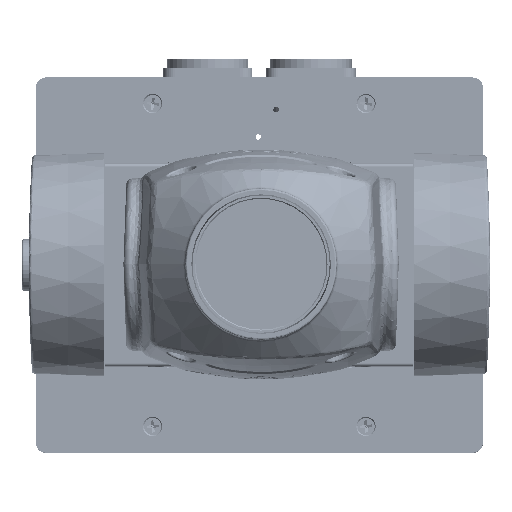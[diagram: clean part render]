
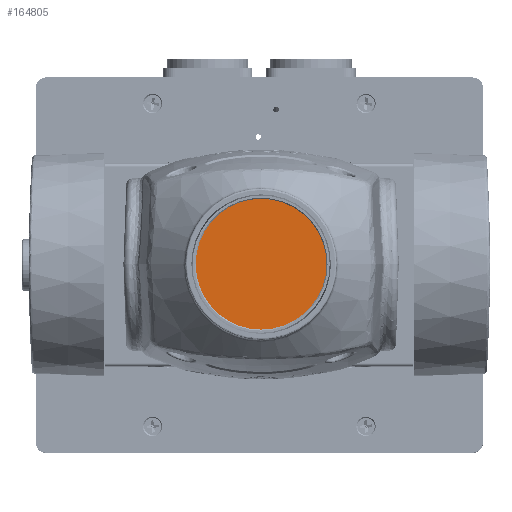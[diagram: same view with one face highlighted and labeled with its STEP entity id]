
A CAD part, top view. The second image highlights one B-rep face of the part: STEP entity #164805.
In plain terms, the highlighted planar face has unit normal (0, 0, 1) as drawn and (0, 1, 0) by its records, which use the part's own axes.
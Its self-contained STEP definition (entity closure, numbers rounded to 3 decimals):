
#164717=CARTESIAN_POINT('',(0.,2.,0.));
#164718=DIRECTION('',(0.,-1.,0.));
#164719=DIRECTION('',(-1.,0.,0.));
#164720=AXIS2_PLACEMENT_3D('',#164717,#164718,#164719);
#164722=CARTESIAN_POINT('',(0.,2.,0.));
#164723=DIRECTION('',(0.,-1.,0.));
#164724=DIRECTION('',(1.,0.,0.));
#164725=AXIS2_PLACEMENT_3D('',#164722,#164723,#164724);
#164731=CARTESIAN_POINT('',(21.5,2.,0.));
#164732=VERTEX_POINT('',#164731);
#164733=CARTESIAN_POINT('',(-21.5,2.,0.));
#164734=VERTEX_POINT('',#164733);
#164796=CARTESIAN_POINT('',(0.,2.,0.));
#164797=DIRECTION('',(0.,1.,0.));
#164798=DIRECTION('',(1.,0.,0.));
#164799=AXIS2_PLACEMENT_3D('',#164796,#164797,#164798);
#164800=PLANE('',#164799);
#164801=ORIENTED_EDGE('',*,*,#164762,.T.);
#164802=ORIENTED_EDGE('',*,*,#164783,.T.);
#164803=EDGE_LOOP('',(#164801,#164802));
#164804=FACE_OUTER_BOUND('',#164803,.F.);
#164721=CIRCLE('',#164720,21.5);
#164726=CIRCLE('',#164725,21.5);
#164762=EDGE_CURVE('',#164734,#164732,#164721,.T.);
#164783=EDGE_CURVE('',#164732,#164734,#164726,.T.);
#164805=ADVANCED_FACE('',(#164804),#164800,.T.);
